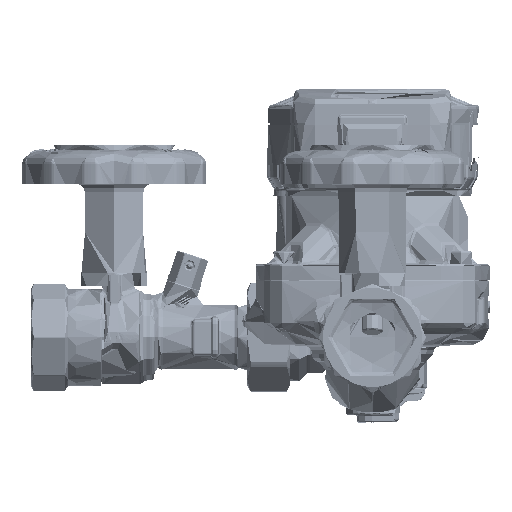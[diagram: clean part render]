
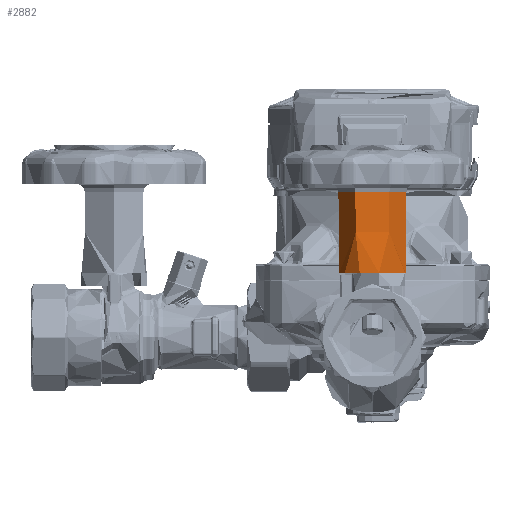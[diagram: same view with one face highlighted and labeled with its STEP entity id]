
A CAD part, left-side view. The second image highlights one B-rep face of the part: STEP entity #2882.
In plain terms, the highlighted conical face has half-angle 0.5 degrees and reference radius 13.021 mm.
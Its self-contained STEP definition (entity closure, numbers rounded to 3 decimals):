
#2882 = ADVANCED_FACE ( 'NONE', ( #235801 ), #76008, .T. ) ;
#3602 = DIRECTION ( 'NONE',  ( -1., 0., 0. ) ) ;
#5895 = CARTESIAN_POINT ( 'NONE',  ( -7.118, 0., -10.652 ) ) ;
#10840 = CARTESIAN_POINT ( 'NONE',  ( -12.503, 0., -2.5 ) ) ;
#15639 = LINE ( 'NONE', #355450, #292196 ) ;
#28413 = VERTEX_POINT ( 'NONE', #429465 ) ;
#31889 = VERTEX_POINT ( 'NONE', #96518 ) ;
#42676 = VERTEX_POINT ( 'NONE', #112731 ) ;
#43264 = CARTESIAN_POINT ( 'NONE',  ( -13.021, 31.026, 0. ) ) ;
#43352 = CARTESIAN_POINT ( 'NONE',  ( -3.725, 0., -12.258 ) ) ;
#54504 = EDGE_LOOP ( 'NONE', ( #181450, #140752, #66460, #429508, #151081, #298895 ) ) ;
#66460 = ORIENTED_EDGE ( 'NONE', *, *, #89264, .T. ) ;
#69949 = VERTEX_POINT ( 'NONE', #43264 ) ;
#74215 = CIRCLE ( 'NONE', #425011, 12.75 ) ;
#76008 = CONICAL_SURFACE ( 'NONE', #99868, 13.021, 0.009 ) ;
#89264 = EDGE_CURVE ( 'NONE', #28413, #369888, #337650, .T. ) ;
#96518 = CARTESIAN_POINT ( 'NONE',  ( 13.021, 31.026, 0. ) ) ;
#99868 = AXIS2_PLACEMENT_3D ( 'NONE', #305861, #155930, #193399 ) ;
#104092 = CIRCLE ( 'NONE', #223926, 13.021 ) ;
#110746 = EDGE_CURVE ( 'NONE', #369888, #399375, #74215, .T. ) ;
#112731 = CARTESIAN_POINT ( 'NONE',  ( 12.75, 0., 0. ) ) ;
#113474 = LINE ( 'NONE', #235710, #220142 ) ;
#140752 = ORIENTED_EDGE ( 'NONE', *, *, #180371, .T. ) ;
#141472 = CARTESIAN_POINT ( 'NONE',  ( 0., 31.026, 0. ) ) ;
#147580 = DIRECTION ( 'NONE',  ( 0., 1., 0. ) ) ;
#151081 = ORIENTED_EDGE ( 'NONE', *, *, #167186, .T. ) ;
#155930 = DIRECTION ( 'NONE',  ( 0., 1., 0. ) ) ;
#167186 = EDGE_CURVE ( 'NONE', #399375, #69949, #15639, .T. ) ;
#180371 = EDGE_CURVE ( 'NONE', #42676, #28413, #430397, .T. ) ;
#181450 = ORIENTED_EDGE ( 'NONE', *, *, #344140, .F. ) ;
#193399 = DIRECTION ( 'NONE',  ( -1., 0., 0. ) ) ;
#194853 = CARTESIAN_POINT ( 'NONE',  ( 0., 0., 0. ) ) ;
#195779 = CARTESIAN_POINT ( 'NONE',  ( -4.914, 0., -11.832 ) ) ;
#195823 = EDGE_CURVE ( 'NONE', #69949, #31889, #104092, .T. ) ;
#198219 = DIRECTION ( 'NONE',  ( 0.009, 1., 0. ) ) ;
#215096 = AXIS2_PLACEMENT_3D ( 'NONE', #242725, #268547, #3602 ) ;
#220142 = VECTOR ( 'NONE', #198219, 1000. ) ;
#223926 = AXIS2_PLACEMENT_3D ( 'NONE', #141472, #293860, #256392 ) ;
#235710 = CARTESIAN_POINT ( 'NONE',  ( 13.021, 31.026, 0. ) ) ;
#235801 = FACE_OUTER_BOUND ( 'NONE', #54504, .T. ) ;
#238237 = CARTESIAN_POINT ( 'NONE',  ( -2.5, 0., -12.503 ) ) ;
#240710 = CARTESIAN_POINT ( 'NONE',  ( -8.132, 0., -9.9 ) ) ;
#242725 = CARTESIAN_POINT ( 'NONE',  ( 0., 0., 0. ) ) ;
#256392 = DIRECTION ( 'NONE',  ( 0., 0., 1. ) ) ;
#268547 = DIRECTION ( 'NONE',  ( 0., 1., 0. ) ) ;
#273258 = CARTESIAN_POINT ( 'NONE',  ( -11.832, 0., -4.914 ) ) ;
#292196 = VECTOR ( 'NONE', #390400, 1000. ) ;
#293860 = DIRECTION ( 'NONE',  ( 0., -1., 0. ) ) ;
#298895 = ORIENTED_EDGE ( 'NONE', *, *, #195823, .T. ) ;
#305861 = CARTESIAN_POINT ( 'NONE',  ( 0., 31.026, 0. ) ) ;
#313005 = CARTESIAN_POINT ( 'NONE',  ( -12.75, 0., 0. ) ) ;
#337650 = B_SPLINE_CURVE_WITH_KNOTS ( 'NONE', 3,
 ( #238237, #43352, #195779, #5895, #240710, #390530, #462971, #273258, #425503, #10840 ),
 .UNSPECIFIED., .F., .F.,
 ( 4, 2, 2, 2, 4 ),
 ( 0., 0.25, 0.5, 0.75, 1. ),
 .UNSPECIFIED. ) ;
#344140 = EDGE_CURVE ( 'NONE', #42676, #31889, #113474, .T. ) ;
#355450 = CARTESIAN_POINT ( 'NONE',  ( -13.021, 31.026, 0. ) ) ;
#369888 = VERTEX_POINT ( 'NONE', #407178 ) ;
#390400 = DIRECTION ( 'NONE',  ( -0.009, 1., 0. ) ) ;
#390530 = CARTESIAN_POINT ( 'NONE',  ( -9.9, 0., -8.132 ) ) ;
#399375 = VERTEX_POINT ( 'NONE', #313005 ) ;
#407178 = CARTESIAN_POINT ( 'NONE',  ( -12.503, 0., -2.5 ) ) ;
#412323 = DIRECTION ( 'NONE',  ( -1., 0., 0. ) ) ;
#425011 = AXIS2_PLACEMENT_3D ( 'NONE', #194853, #147580, #412323 ) ;
#425503 = CARTESIAN_POINT ( 'NONE',  ( -12.258, 0., -3.725 ) ) ;
#429465 = CARTESIAN_POINT ( 'NONE',  ( -2.5, 0., -12.503 ) ) ;
#429508 = ORIENTED_EDGE ( 'NONE', *, *, #110746, .T. ) ;
#430397 = CIRCLE ( 'NONE', #215096, 12.75 ) ;
#462971 = CARTESIAN_POINT ( 'NONE',  ( -10.652, 0., -7.118 ) ) ;
